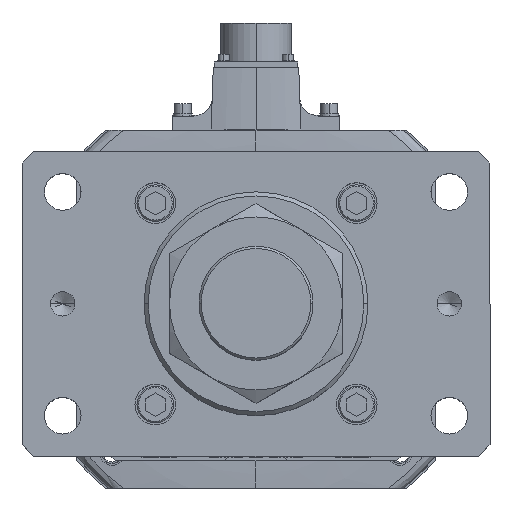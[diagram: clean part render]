
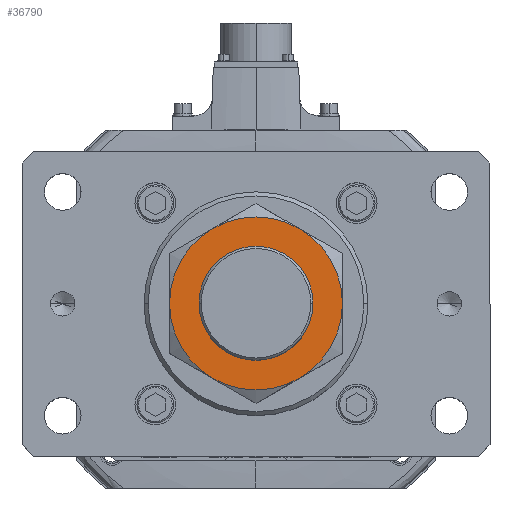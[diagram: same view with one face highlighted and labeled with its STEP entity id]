
A CAD part, top view. The second image highlights one B-rep face of the part: STEP entity #36790.
In plain terms, the highlighted planar face has unit normal (0, 0, 1).
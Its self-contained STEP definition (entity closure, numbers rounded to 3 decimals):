
#372 = CIRCLE ( 'NONE', #42575, 28. ) ;
#474 = CIRCLE ( 'NONE', #33570, 42.5 ) ;
#836 = DIRECTION ( 'NONE',  ( 0., 0., 1. ) ) ;
#1010 = CARTESIAN_POINT ( 'NONE',  ( 0., 0., 34. ) ) ;
#1682 = AXIS2_PLACEMENT_3D ( 'NONE', #34516, #21899, #34707 ) ;
#6547 = DIRECTION ( 'NONE',  ( 1., 0., 0. ) ) ;
#6675 = ORIENTED_EDGE ( 'NONE', *, *, #48711, .F. ) ;
#6737 = ORIENTED_EDGE ( 'NONE', *, *, #31224, .F. ) ;
#7661 = AXIS2_PLACEMENT_3D ( 'NONE', #36013, #10854, #10518 ) ;
#8382 = VERTEX_POINT ( 'NONE', #20983 ) ;
#9224 = DIRECTION ( 'NONE',  ( 0., 0., -1. ) ) ;
#9583 = CIRCLE ( 'NONE', #23733, 42.5 ) ;
#9863 = EDGE_LOOP ( 'NONE', ( #54251, #36417, #19330, #38703, #6737, #39489 ) ) ;
#9912 = ORIENTED_EDGE ( 'NONE', *, *, #11439, .F. ) ;
#10463 = AXIS2_PLACEMENT_3D ( 'NONE', #28286, #19382, #6547 ) ;
#10497 = DIRECTION ( 'NONE',  ( 0., 0., -1. ) ) ;
#10518 = DIRECTION ( 'NONE',  ( -1., 0., 0. ) ) ;
#10854 = DIRECTION ( 'NONE',  ( 0., 0., -1. ) ) ;
#10858 = CARTESIAN_POINT ( 'NONE',  ( 42.5, 0., 34. ) ) ;
#11144 = VERTEX_POINT ( 'NONE', #10858 ) ;
#11439 = EDGE_CURVE ( 'NONE', #34136, #45214, #372, .T. ) ;
#11459 = VERTEX_POINT ( 'NONE', #35089 ) ;
#13111 = DIRECTION ( 'NONE',  ( 1., 0., 0. ) ) ;
#13739 = CIRCLE ( 'NONE', #35741, 42.5 ) ;
#15476 = CARTESIAN_POINT ( 'NONE',  ( 0., 0., 34. ) ) ;
#17379 = CARTESIAN_POINT ( 'NONE',  ( 0., 0., 34. ) ) ;
#18774 = CIRCLE ( 'NONE', #10463, 42.5 ) ;
#19053 = DIRECTION ( 'NONE',  ( 0., 0., -1. ) ) ;
#19330 = ORIENTED_EDGE ( 'NONE', *, *, #46640, .F. ) ;
#19382 = DIRECTION ( 'NONE',  ( 0., 0., -1. ) ) ;
#19883 = CIRCLE ( 'NONE', #1682, 42.5 ) ;
#20118 = AXIS2_PLACEMENT_3D ( 'NONE', #17379, #51795, #47134 ) ;
#20983 = CARTESIAN_POINT ( 'NONE',  ( -21.25, -36.806, 34. ) ) ;
#21899 = DIRECTION ( 'NONE',  ( 0., 0., -1. ) ) ;
#22865 = DIRECTION ( 'NONE',  ( 1., 0., 0. ) ) ;
#23242 = CARTESIAN_POINT ( 'NONE',  ( 28., 0., 34. ) ) ;
#23283 = CIRCLE ( 'NONE', #7661, 42.5 ) ;
#23733 = AXIS2_PLACEMENT_3D ( 'NONE', #40432, #19053, #52890 ) ;
#27240 = FACE_OUTER_BOUND ( 'NONE', #9863, .T. ) ;
#28286 = CARTESIAN_POINT ( 'NONE',  ( 0., 0., 34. ) ) ;
#29142 = EDGE_CURVE ( 'NONE', #11144, #32884, #13739, .T. ) ;
#30010 = CARTESIAN_POINT ( 'NONE',  ( 0., 0., 34. ) ) ;
#30558 = DIRECTION ( 'NONE',  ( 1., 0., 0. ) ) ;
#31084 = CARTESIAN_POINT ( 'NONE',  ( -28., 0., 34. ) ) ;
#31224 = EDGE_CURVE ( 'NONE', #8382, #11459, #19883, .T. ) ;
#32884 = VERTEX_POINT ( 'NONE', #49333 ) ;
#33570 = AXIS2_PLACEMENT_3D ( 'NONE', #30010, #9224, #13111 ) ;
#34136 = VERTEX_POINT ( 'NONE', #23242 ) ;
#34516 = CARTESIAN_POINT ( 'NONE',  ( 0., 0., 34. ) ) ;
#34646 = VERTEX_POINT ( 'NONE', #51384 ) ;
#34707 = DIRECTION ( 'NONE',  ( 1., 0., 0. ) ) ;
#35089 = CARTESIAN_POINT ( 'NONE',  ( -42.5, 0., 34. ) ) ;
#35146 = PLANE ( 'NONE',  #50027 ) ;
#35741 = AXIS2_PLACEMENT_3D ( 'NONE', #15476, #10497, #49322 ) ;
#36013 = CARTESIAN_POINT ( 'NONE',  ( 0., 0., 34. ) ) ;
#36417 = ORIENTED_EDGE ( 'NONE', *, *, #48852, .F. ) ;
#36790 = ADVANCED_FACE ( 'NONE', ( #27240, #48505 ), #35146, .T. ) ;
#38703 = ORIENTED_EDGE ( 'NONE', *, *, #38876, .F. ) ;
#38876 = EDGE_CURVE ( 'NONE', #11459, #34646, #23283, .T. ) ;
#39433 = DIRECTION ( 'NONE',  ( 0., 0., 1. ) ) ;
#39489 = ORIENTED_EDGE ( 'NONE', *, *, #54754, .F. ) ;
#39981 = CARTESIAN_POINT ( 'NONE',  ( 21.25, 36.806, 34. ) ) ;
#40432 = CARTESIAN_POINT ( 'NONE',  ( 0., 0., 34. ) ) ;
#40996 = EDGE_LOOP ( 'NONE', ( #6675, #9912 ) ) ;
#42575 = AXIS2_PLACEMENT_3D ( 'NONE', #1010, #836, #30558 ) ;
#43560 = CIRCLE ( 'NONE', #20118, 28. ) ;
#44177 = VERTEX_POINT ( 'NONE', #39981 ) ;
#45214 = VERTEX_POINT ( 'NONE', #31084 ) ;
#46640 = EDGE_CURVE ( 'NONE', #34646, #44177, #18774, .T. ) ;
#47134 = DIRECTION ( 'NONE',  ( 1., 0., 0. ) ) ;
#48322 = CARTESIAN_POINT ( 'NONE',  ( 0., 0., 34. ) ) ;
#48505 = FACE_BOUND ( 'NONE', #40996, .T. ) ;
#48711 = EDGE_CURVE ( 'NONE', #45214, #34136, #43560, .T. ) ;
#48852 = EDGE_CURVE ( 'NONE', #44177, #11144, #9583, .T. ) ;
#49322 = DIRECTION ( 'NONE',  ( 1., 0., 0. ) ) ;
#49333 = CARTESIAN_POINT ( 'NONE',  ( 21.25, -36.806, 34. ) ) ;
#50027 = AXIS2_PLACEMENT_3D ( 'NONE', #48322, #39433, #22865 ) ;
#51384 = CARTESIAN_POINT ( 'NONE',  ( -21.25, 36.806, 34. ) ) ;
#51795 = DIRECTION ( 'NONE',  ( 0., 0., 1. ) ) ;
#52890 = DIRECTION ( 'NONE',  ( 1., 0., 0. ) ) ;
#54251 = ORIENTED_EDGE ( 'NONE', *, *, #29142, .F. ) ;
#54754 = EDGE_CURVE ( 'NONE', #32884, #8382, #474, .T. ) ;
